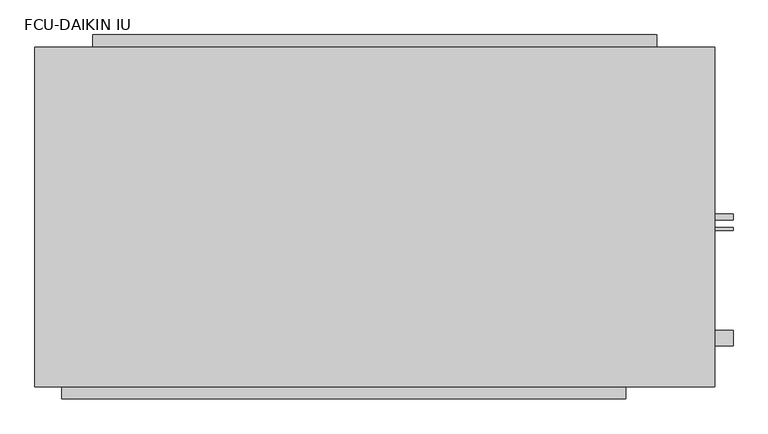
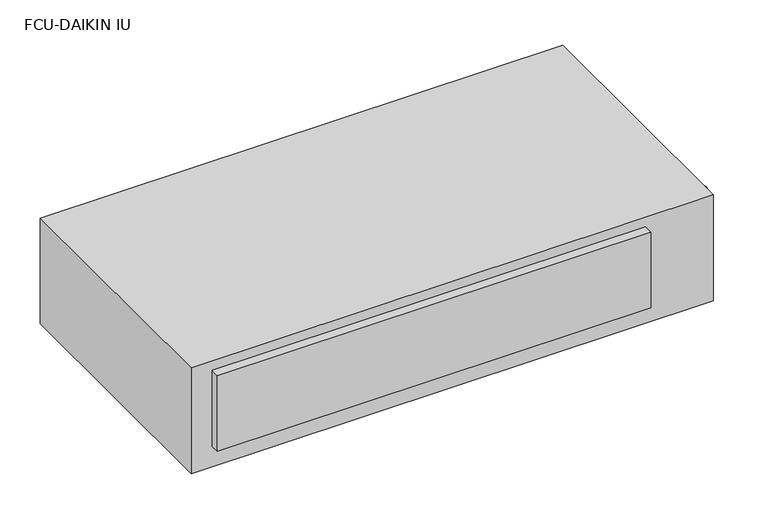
"""IFC4 building model written with IfcOpenShell, lengths in millimetres: proxy geometry, FCU-DAIKIN IU : 12.9kW, 230V/50Hz/1Ph."""

from ifc_helpers import new_model, si_unit, point, frame, frame_2d, origin, origin_with_axes, place, context, project, spatial, polyline, circle_curve, trimmed, segment, composite_curve, outline, extrude, source, transform, mapped, element, save


def fcu_daikin_iu_5a1bd61d(model_context):
    return source(origin(), model_context, "Body", "SweptSolid", [
        extrude(outline(polyline([(580.9375, 350.0), (-580.9375, 350.0), (-580.9375, 375.4), (580.9375, 375.4), (580.9375, 350.0)])), frame((0.0, 0.0, 34.05), z_axis=(0.0, 0.0, 1.0), x_axis=(1.0, 0.0, 0.0)), (0.0, 0.0, 1.0), 214.3),
        extrude(outline(composite_curve([segment(trimmed(circle_curve(frame_2d((-250.0, 233.3)), 15.9), [point((-265.9, 233.3))], [point((-234.1, 233.3))], False, "CARTESIAN"), True, "CONTINUOUS"), segment(trimmed(circle_curve(frame_2d((-250.0, 233.3)), 15.9), [point((-234.1, 233.3))], [point((-265.9, 233.3))], False, "CARTESIAN"), True, "CONTINUOUS")], self_intersect=False)), frame((700.0, 0.0, 0.0), z_axis=(1.0, 0.0, 0.0), x_axis=(0.0, 1.0, 0.0)), (0.0, 0.0, 1.0), 38.1),
        extrude(outline(composite_curve([segment(trimmed(circle_curve(frame_2d((0.0, 100.0)), 6.35), [point((-6.35, 100.0))], [point((6.35, 100.0))], False, "CARTESIAN"), True, "CONTINUOUS"), segment(trimmed(circle_curve(frame_2d((0.0, 100.0)), 6.35), [point((6.35, 100.0))], [point((-6.35, 100.0))], False, "CARTESIAN"), True, "CONTINUOUS")], self_intersect=False)), frame((700.0, 0.0, 0.0), z_axis=(1.0, 0.0, 0.0), x_axis=(0.0, 1.0, 0.0)), (0.0, 0.0, 1.0), 38.1),
        extrude(outline(composite_curve([segment(trimmed(circle_curve(frame_2d((-25.0, 150.8)), 3.2), [point((-28.2, 150.8))], [point((-21.8, 150.8))], False, "CARTESIAN"), True, "CONTINUOUS"), segment(trimmed(circle_curve(frame_2d((-25.0, 150.8)), 3.2), [point((-21.8, 150.8))], [point((-28.2, 150.8))], False, "CARTESIAN"), True, "CONTINUOUS")], self_intersect=False)), frame((700.0, 0.0, 0.0), z_axis=(1.0, 0.0, 0.0), x_axis=(0.0, 1.0, 0.0)), (0.0, 0.0, 1.0), 38.1),
        extrude(outline(polyline([(517.4375, -375.4), (-644.4375, -375.4), (-644.4375, -350.0), (517.4375, -350.0), (517.4375, -375.4)])), frame((0.0, 0.0, 58.775), z_axis=(0.0, 0.0, 1.0), x_axis=(1.0, 0.0, 0.0)), (0.0, 0.0, 1.0), 214.275),
        extrude(outline(polyline([(700.0, -350.0), (-700.0, -350.0), (-700.0, 350.0), (700.0, 350.0), (700.0, -350.0)])), origin_with_axes(), (0.0, 0.0, 1.0), 300.0),
    ])


if __name__ == "__main__":
    model = new_model("IFC4")
    model_context = context("Model", 3, world=origin())
    ifc_project = project(units=[si_unit("LENGTHUNIT", "METRE", prefix="MILLI")], contexts=[model_context])
    site = spatial("IfcSite", under=ifc_project)
    building = spatial("IfcBuilding", under=site)
    placement = place(None, origin())
    fcu_daikin_iu_shape = fcu_daikin_iu_5a1bd61d(model_context)
    element("IfcBuildingElementProxy", 1, Name="FCU-DAIKIN IU : 12.9kW, 230V/50Hz/1Ph", ObjectType="FCU-DAIKIN IU : 12.9kW, 230V/50Hz/1Ph", at=placement, inside=building, context=model_context, shape_type="MappedRepresentation", body=[
        mapped(fcu_daikin_iu_shape, transform((0.0, 0.0, 0.0), x_axis=(1.0, 0.0, 0.0), y_axis=(0.0, 1.0, 0.0), z_axis=(0.0, 0.0, 1.0))),
    ])
    save(model, "model.ifc")
